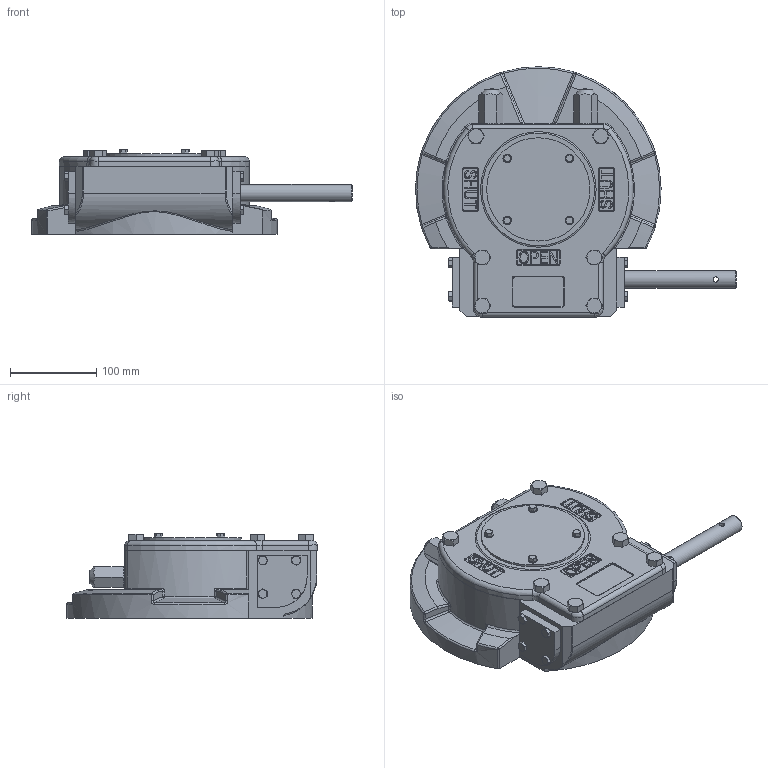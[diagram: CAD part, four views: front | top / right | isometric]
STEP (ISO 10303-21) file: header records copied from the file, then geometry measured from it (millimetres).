
FILE_DESCRIPTION( ( 'Unknown' ), '1' );
FILE_NAME( 'M:/Current Drawings/Internet datasheets/4 - STEP/AB1250G BU LB LH.stp', 'Unknown', ( 'Unknown' ), ( 'Unknown' ), 'PSStep 15.0.49', 'Unknown', ' ' );
FILE_SCHEMA( ( 'AUTOMOTIVE_DESIGN { 1 0 10303 214 1 1 1 1 }' ) );
Length unit declared in the file: millimetre
Products named in the file (1): 600PAP2023300
Bounding box: 372.5 x 290.88 x 98.5 mm (x, y, z)
Volume: 3438727.9 mm3; surface area: 419943.1 mm2
Topology: 1 solids, 25 shells, 1675 faces, 4269 edges, 2672 vertices
Faces by surface type: plane 517, cylinder 360, cone 301, bspline 241, torus 209, extrusion 26, sphere 21
Full cylindrical faces by diameter (mm): 3 x1, 4.134 x6, 5 x4, 5.6 x2, 6 x13, 7 x8, 8.376 x12, 10 x10, 12 x6, 13.835 x2, 20 x3, 20.5 x2, 22 x2, 24 x1, 25.2 x1, 26 x2, 32 x2, 82.15 x2, 84 x2, 85 x2, 120 x1
Entity records: 94154 total; most frequent: CARTESIAN_POINT 44313, ORIENTED_EDGE 8068, DIRECTION 6780, EDGE_CURVE 4034, AXIS2_PLACEMENT_3D 2885, VERTEX_POINT 2601, EDGE_LOOP 1900, FACE_OUTER_BOUND 1773
